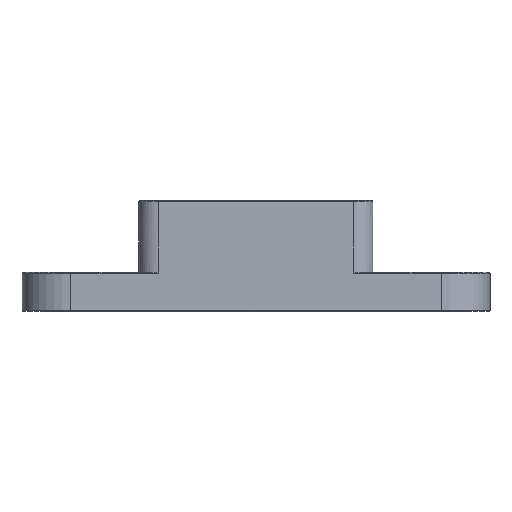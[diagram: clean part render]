
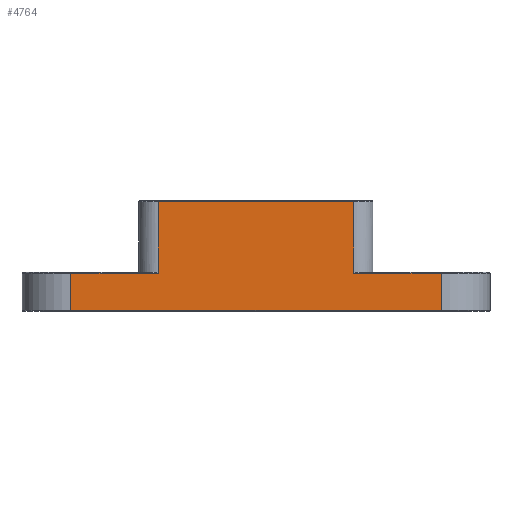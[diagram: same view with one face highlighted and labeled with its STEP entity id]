
A CAD part, front view. The second image highlights one B-rep face of the part: STEP entity #4764.
In plain terms, the highlighted planar face has unit normal (0, -1, 0).
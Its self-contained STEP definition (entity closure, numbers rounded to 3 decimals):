
#58=PLANE('',#5139);
#351=FACE_OUTER_BOUND('',#626,.T.);
#626=EDGE_LOOP('',(#4054,#4055,#4056,#4057,#4058,#4059,#4060,#4061));
#1345=LINE('',#25247,#1630);
#1370=LINE('',#25343,#1655);
#1371=LINE('',#25349,#1656);
#1372=LINE('',#25351,#1657);
#1373=LINE('',#25353,#1658);
#1374=LINE('',#25355,#1659);
#1375=LINE('',#25357,#1660);
#1376=LINE('',#25358,#1661);
#1630=VECTOR('',#5957,10.);
#1655=VECTOR('',#6056,10.);
#1656=VECTOR('',#6063,10.);
#1657=VECTOR('',#6064,10.);
#1658=VECTOR('',#6065,10.);
#1659=VECTOR('',#6066,10.);
#1660=VECTOR('',#6067,10.);
#1661=VECTOR('',#6068,10.);
#2093=VERTEX_POINT('',#25244);
#2094=VERTEX_POINT('',#25246);
#2122=VERTEX_POINT('',#25342);
#2124=VERTEX_POINT('',#25348);
#2125=VERTEX_POINT('',#25350);
#2126=VERTEX_POINT('',#25352);
#2127=VERTEX_POINT('',#25354);
#2128=VERTEX_POINT('',#25356);
#2740=EDGE_CURVE('',#2093,#2094,#1345,.T.);
#2787=EDGE_CURVE('',#2122,#2094,#1370,.T.);
#2790=EDGE_CURVE('',#2124,#2093,#1371,.T.);
#2791=EDGE_CURVE('',#2125,#2124,#1372,.T.);
#2792=EDGE_CURVE('',#2126,#2125,#1373,.T.);
#2793=EDGE_CURVE('',#2127,#2126,#1374,.T.);
#2794=EDGE_CURVE('',#2127,#2128,#1375,.T.);
#2795=EDGE_CURVE('',#2122,#2128,#1376,.T.);
#4054=ORIENTED_EDGE('',*,*,#2740,.F.);
#4055=ORIENTED_EDGE('',*,*,#2790,.F.);
#4056=ORIENTED_EDGE('',*,*,#2791,.F.);
#4057=ORIENTED_EDGE('',*,*,#2792,.F.);
#4058=ORIENTED_EDGE('',*,*,#2793,.F.);
#4059=ORIENTED_EDGE('',*,*,#2794,.T.);
#4060=ORIENTED_EDGE('',*,*,#2795,.F.);
#4061=ORIENTED_EDGE('',*,*,#2787,.T.);
#4764=ADVANCED_FACE('',(#351),#58,.T.);
#5139=AXIS2_PLACEMENT_3D('',#25347,#6061,#6062);
#5957=DIRECTION('',(1.,0.,0.));
#6056=DIRECTION('',(0.,0.,1.));
#6061=DIRECTION('center_axis',(0.,-1.,0.));
#6062=DIRECTION('ref_axis',(1.,0.,0.));
#6063=DIRECTION('',(0.,0.,1.));
#6064=DIRECTION('',(1.,0.,0.));
#6065=DIRECTION('',(0.,0.,1.));
#6066=DIRECTION('',(-1.,0.,0.));
#6067=DIRECTION('',(0.,0.,1.));
#6068=DIRECTION('',(1.,0.,0.));
#25244=CARTESIAN_POINT('',(-10.,-12.,11.2));
#25246=CARTESIAN_POINT('',(10.,-12.,11.2));
#25247=CARTESIAN_POINT('',(-9.5,-12.,11.2));
#25342=CARTESIAN_POINT('',(10.,-12.,3.9));
#25343=CARTESIAN_POINT('',(10.,-12.,0.));
#25347=CARTESIAN_POINT('Origin',(-19.,-12.,0.));
#25348=CARTESIAN_POINT('',(-10.,-12.,3.9));
#25349=CARTESIAN_POINT('',(-10.,-12.,0.));
#25350=CARTESIAN_POINT('',(-19.,-12.,3.9));
#25351=CARTESIAN_POINT('',(-9.5,-12.,3.9));
#25352=CARTESIAN_POINT('',(-19.,-12.,0.1));
#25353=CARTESIAN_POINT('',(-19.,-12.,0.));
#25354=CARTESIAN_POINT('',(19.,-12.,0.1));
#25355=CARTESIAN_POINT('',(-9.5,-12.,0.1));
#25356=CARTESIAN_POINT('',(19.,-12.,3.9));
#25357=CARTESIAN_POINT('',(19.,-12.,0.));
#25358=CARTESIAN_POINT('',(-9.5,-12.,3.9));
